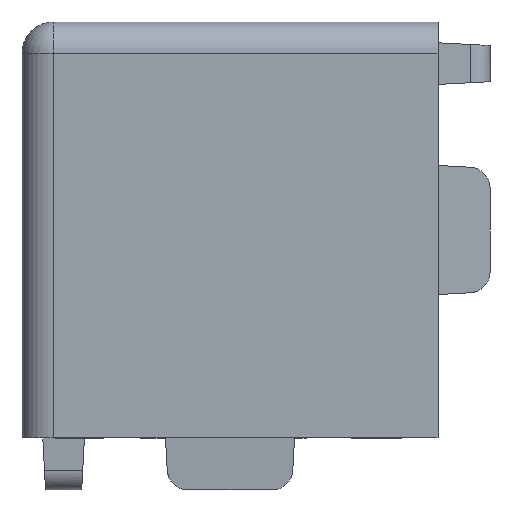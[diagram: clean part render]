
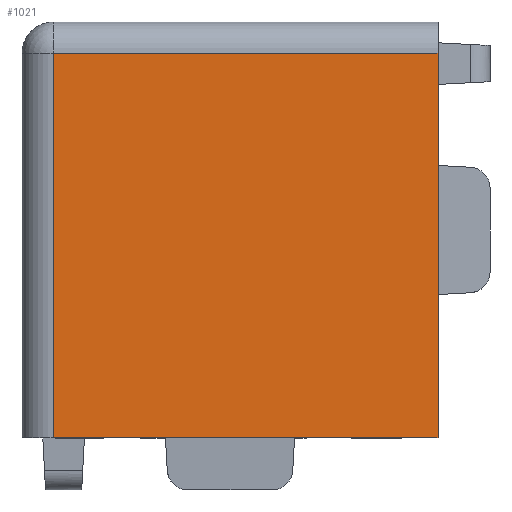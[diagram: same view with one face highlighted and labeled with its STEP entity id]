
A CAD part, front view. The second image highlights one B-rep face of the part: STEP entity #1021.
In plain terms, the highlighted planar face has unit normal (0, -1, 0).
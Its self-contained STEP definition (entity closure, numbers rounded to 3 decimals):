
#173 = CARTESIAN_POINT ( 'NONE',  ( -8.5, -10., 10. ) ) ;
#174 = DIRECTION ( 'NONE',  ( 0., 0., -1. ) ) ;
#217 = CARTESIAN_POINT ( 'NONE',  ( -8.5, -10., -10. ) ) ;
#251 = DIRECTION ( 'NONE',  ( 0., 0., -1. ) ) ;
#252 = CARTESIAN_POINT ( 'NONE',  ( 10., -10., 10. ) ) ;
#423 = AXIS2_PLACEMENT_3D ( 'NONE', #1976, #2053, #1986 ) ;
#540 = EDGE_LOOP ( 'NONE', ( #771, #1237, #801, #1230 ) ) ;
#771 = ORIENTED_EDGE ( 'NONE', *, *, #2830, .F. ) ;
#801 = ORIENTED_EDGE ( 'NONE', *, *, #1962, .T. ) ;
#926 = EDGE_CURVE ( 'NONE', #2525, #4738, #4798, .T. ) ;
#1021 = ADVANCED_FACE ( 'NONE', ( #4874 ), #2021, .F. ) ;
#1230 = ORIENTED_EDGE ( 'NONE', *, *, #926, .T. ) ;
#1237 = ORIENTED_EDGE ( 'NONE', *, *, #3217, .T. ) ;
#1332 = CARTESIAN_POINT ( 'NONE',  ( -10., -10., -10. ) ) ;
#1406 = LINE ( 'NONE', #173, #1409 ) ;
#1409 = VECTOR ( 'NONE', #174, 1000. ) ;
#1427 = LINE ( 'NONE', #252, #1429 ) ;
#1429 = VECTOR ( 'NONE', #251, 1000. ) ;
#1549 = LINE ( 'NONE', #2098, #1552 ) ;
#1552 = VECTOR ( 'NONE', #2099, 1000. ) ;
#1922 = VERTEX_POINT ( 'NONE', #4466 ) ;
#1925 = VERTEX_POINT ( 'NONE', #4469 ) ;
#1962 = EDGE_CURVE ( 'NONE', #1922, #2525, #1406, .T. ) ;
#1976 = CARTESIAN_POINT ( 'NONE',  ( -10., -10., 10. ) ) ;
#1986 = DIRECTION ( 'NONE',  ( 0., 0., 1. ) ) ;
#2021 = PLANE ( 'NONE',  #423 ) ;
#2053 = DIRECTION ( 'NONE',  ( 0., 1., 0. ) ) ;
#2098 = CARTESIAN_POINT ( 'NONE',  ( -10., -10., 8.5 ) ) ;
#2099 = DIRECTION ( 'NONE',  ( -1., 0., 0. ) ) ;
#2286 = CARTESIAN_POINT ( 'NONE',  ( 10., -10., -10. ) ) ;
#2525 = VERTEX_POINT ( 'NONE', #217 ) ;
#2830 = EDGE_CURVE ( 'NONE', #1925, #4738, #1427, .T. ) ;
#3217 = EDGE_CURVE ( 'NONE', #1925, #1922, #1549, .T. ) ;
#3472 = DIRECTION ( 'NONE',  ( 1., 0., 0. ) ) ;
#4466 = CARTESIAN_POINT ( 'NONE',  ( -8.5, -10., 8.5 ) ) ;
#4469 = CARTESIAN_POINT ( 'NONE',  ( 10., -10., 8.5 ) ) ;
#4738 = VERTEX_POINT ( 'NONE', #2286 ) ;
#4798 = LINE ( 'NONE', #1332, #4805 ) ;
#4805 = VECTOR ( 'NONE', #3472, 1000. ) ;
#4874 = FACE_OUTER_BOUND ( 'NONE', #540, .T. ) ;
